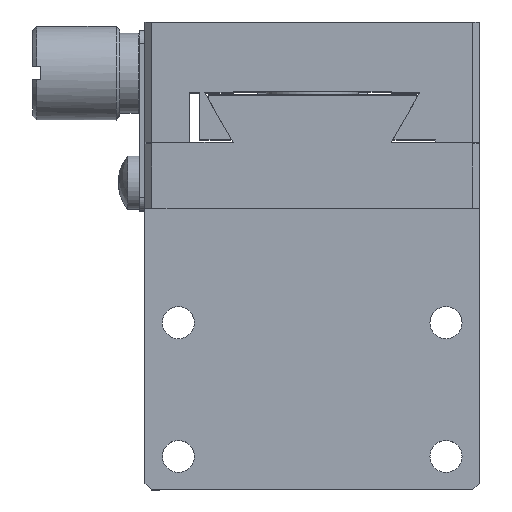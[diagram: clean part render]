
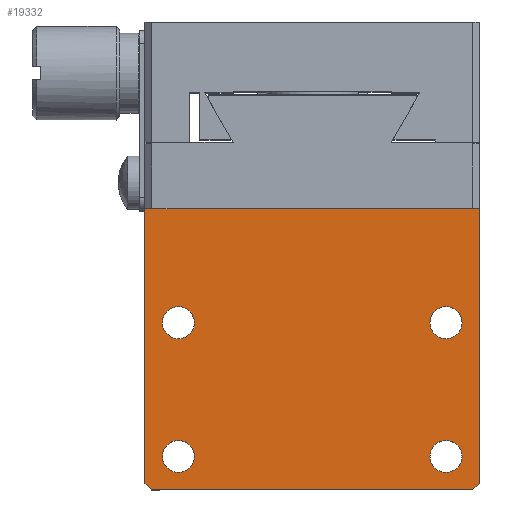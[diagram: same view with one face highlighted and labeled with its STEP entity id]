
A CAD part, top view. The second image highlights one B-rep face of the part: STEP entity #19332.
In plain terms, the highlighted planar face has unit normal (0, 0, 1).
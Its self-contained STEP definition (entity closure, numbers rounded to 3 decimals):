
#42 = VERTEX_POINT ( 'NONE', #19686 ) ;
#60 = EDGE_CURVE ( 'NONE', #9926, #9994, #2398, .T. ) ;
#342 = AXIS2_PLACEMENT_3D ( 'NONE', #15865, #15484, #5731 ) ;
#851 = ORIENTED_EDGE ( 'NONE', *, *, #18841, .T. ) ;
#1125 = CARTESIAN_POINT ( 'NONE',  ( 0., 0., 12.5 ) ) ;
#1238 = VECTOR ( 'NONE', #10334, 1000. ) ;
#1276 = VERTEX_POINT ( 'NONE', #3372 ) ;
#1446 = FACE_BOUND ( 'NONE', #17618, .T. ) ;
#1490 = VERTEX_POINT ( 'NONE', #19811 ) ;
#2120 = CIRCLE ( 'NONE', #17896, 1.2 ) ;
#2398 = LINE ( 'NONE', #14229, #1238 ) ;
#2508 = VERTEX_POINT ( 'NONE', #6288 ) ;
#2703 = EDGE_CURVE ( 'NONE', #1490, #1490, #2120, .T. ) ;
#2818 = CARTESIAN_POINT ( 'NONE',  ( 24.5, -20., 12.5 ) ) ;
#2854 = VERTEX_POINT ( 'NONE', #2818 ) ;
#2949 = EDGE_CURVE ( 'NONE', #9718, #9926, #11141, .T. ) ;
#3286 = ORIENTED_EDGE ( 'NONE', *, *, #10761, .F. ) ;
#3372 = CARTESIAN_POINT ( 'NONE',  ( 25., 1., 12.5 ) ) ;
#3397 = FACE_BOUND ( 'NONE', #20007, .T. ) ;
#3695 = EDGE_CURVE ( 'NONE', #42, #42, #15803, .T. ) ;
#3784 = FACE_BOUND ( 'NONE', #20607, .T. ) ;
#4391 = CARTESIAN_POINT ( 'NONE',  ( 22.5, -17.5, 12.5 ) ) ;
#4915 = CIRCLE ( 'NONE', #10742, 1.2 ) ;
#5731 = DIRECTION ( 'NONE',  ( 1., 0., 0. ) ) ;
#6128 = VERTEX_POINT ( 'NONE', #11476 ) ;
#6288 = CARTESIAN_POINT ( 'NONE',  ( 23.7, -7.5, 12.5 ) ) ;
#6345 = DIRECTION ( 'NONE',  ( 0.707, 0.707, 0. ) ) ;
#6404 = CARTESIAN_POINT ( 'NONE',  ( 2.5, -7.5, 12.5 ) ) ;
#7143 = LINE ( 'NONE', #13001, #18758 ) ;
#7871 = LINE ( 'NONE', #9700, #14752 ) ;
#8289 = LINE ( 'NONE', #12323, #20926 ) ;
#9054 = DIRECTION ( 'NONE',  ( 0., -1., 0. ) ) ;
#9245 = CARTESIAN_POINT ( 'NONE',  ( 0.5, -20., 12.5 ) ) ;
#9700 = CARTESIAN_POINT ( 'NONE',  ( 25., -20., 12.5 ) ) ;
#9718 = VERTEX_POINT ( 'NONE', #19792 ) ;
#9926 = VERTEX_POINT ( 'NONE', #22629 ) ;
#9994 = VERTEX_POINT ( 'NONE', #9245 ) ;
#10334 = DIRECTION ( 'NONE',  ( 0.707, -0.707, 0. ) ) ;
#10444 = CARTESIAN_POINT ( 'NONE',  ( 25., -19.5, 12.5 ) ) ;
#10454 = DIRECTION ( 'NONE',  ( 1., 0., 0. ) ) ;
#10742 = AXIS2_PLACEMENT_3D ( 'NONE', #18924, #10748, #12439 ) ;
#10748 = DIRECTION ( 'NONE',  ( 0., 0., -1. ) ) ;
#10761 = EDGE_CURVE ( 'NONE', #9718, #1276, #7143, .T. ) ;
#11071 = DIRECTION ( 'NONE',  ( 0., -1., 0. ) ) ;
#11130 = ORIENTED_EDGE ( 'NONE', *, *, #60, .T. ) ;
#11141 = LINE ( 'NONE', #1125, #13225 ) ;
#11476 = CARTESIAN_POINT ( 'NONE',  ( 3.7, -17.5, 12.5 ) ) ;
#11570 = EDGE_CURVE ( 'NONE', #2508, #2508, #12334, .T. ) ;
#12251 = DIRECTION ( 'NONE',  ( 0., 0., -1. ) ) ;
#12323 = CARTESIAN_POINT ( 'NONE',  ( 25., -19.5, 12.5 ) ) ;
#12334 = CIRCLE ( 'NONE', #13809, 1.2 ) ;
#12439 = DIRECTION ( 'NONE',  ( 1., 0., 0. ) ) ;
#12536 = CARTESIAN_POINT ( 'NONE',  ( 22.5, -7.5, 12.5 ) ) ;
#12789 = DIRECTION ( 'NONE',  ( 0., 0., -1. ) ) ;
#13001 = CARTESIAN_POINT ( 'NONE',  ( 0., 1., 12.5 ) ) ;
#13225 = VECTOR ( 'NONE', #9054, 1000. ) ;
#13436 = EDGE_CURVE ( 'NONE', #1276, #22295, #17040, .T. ) ;
#13778 = ORIENTED_EDGE ( 'NONE', *, *, #11570, .T. ) ;
#13809 = AXIS2_PLACEMENT_3D ( 'NONE', #12536, #12789, #10454 ) ;
#13910 = ORIENTED_EDGE ( 'NONE', *, *, #3695, .T. ) ;
#14126 = DIRECTION ( 'NONE',  ( 0., 0., -1. ) ) ;
#14229 = CARTESIAN_POINT ( 'NONE',  ( 0.5, -20., 12.5 ) ) ;
#14752 = VECTOR ( 'NONE', #25282, 1000. ) ;
#15388 = AXIS2_PLACEMENT_3D ( 'NONE', #6404, #12251, #16281 ) ;
#15484 = DIRECTION ( 'NONE',  ( 0., 0., -1. ) ) ;
#15616 = EDGE_CURVE ( 'NONE', #2854, #22295, #8289, .T. ) ;
#15803 = CIRCLE ( 'NONE', #15388, 1.2 ) ;
#15865 = CARTESIAN_POINT ( 'NONE',  ( 25., 0., 12.5 ) ) ;
#16281 = DIRECTION ( 'NONE',  ( 1., 0., 0. ) ) ;
#16693 = EDGE_CURVE ( 'NONE', #2854, #9994, #7871, .T. ) ;
#16753 = ORIENTED_EDGE ( 'NONE', *, *, #2703, .T. ) ;
#17040 = LINE ( 'NONE', #17173, #24633 ) ;
#17173 = CARTESIAN_POINT ( 'NONE',  ( 25., 0., 12.5 ) ) ;
#17433 = FACE_OUTER_BOUND ( 'NONE', #18753, .T. ) ;
#17618 = EDGE_LOOP ( 'NONE', ( #16753 ) ) ;
#17896 = AXIS2_PLACEMENT_3D ( 'NONE', #4391, #14126, #21928 ) ;
#18713 = EDGE_LOOP ( 'NONE', ( #851 ) ) ;
#18753 = EDGE_LOOP ( 'NONE', ( #25034, #11130, #24783, #21444, #20599, #3286 ) ) ;
#18758 = VECTOR ( 'NONE', #20921, 1000. ) ;
#18841 = EDGE_CURVE ( 'NONE', #6128, #6128, #4915, .T. ) ;
#18924 = CARTESIAN_POINT ( 'NONE',  ( 2.5, -17.5, 12.5 ) ) ;
#19332 = ADVANCED_FACE ( 'NONE', ( #19644, #1446, #3397, #3784, #17433 ), #21457, .F. ) ;
#19644 = FACE_BOUND ( 'NONE', #18713, .T. ) ;
#19686 = CARTESIAN_POINT ( 'NONE',  ( 3.7, -7.5, 12.5 ) ) ;
#19792 = CARTESIAN_POINT ( 'NONE',  ( 0., 1., 12.5 ) ) ;
#19811 = CARTESIAN_POINT ( 'NONE',  ( 23.7, -17.5, 12.5 ) ) ;
#20007 = EDGE_LOOP ( 'NONE', ( #13778 ) ) ;
#20599 = ORIENTED_EDGE ( 'NONE', *, *, #13436, .F. ) ;
#20607 = EDGE_LOOP ( 'NONE', ( #13910 ) ) ;
#20921 = DIRECTION ( 'NONE',  ( 1., 0., 0. ) ) ;
#20926 = VECTOR ( 'NONE', #6345, 1000. ) ;
#21444 = ORIENTED_EDGE ( 'NONE', *, *, #15616, .T. ) ;
#21457 = PLANE ( 'NONE',  #342 ) ;
#21928 = DIRECTION ( 'NONE',  ( 1., 0., 0. ) ) ;
#22295 = VERTEX_POINT ( 'NONE', #10444 ) ;
#22629 = CARTESIAN_POINT ( 'NONE',  ( 0., -19.5, 12.5 ) ) ;
#24633 = VECTOR ( 'NONE', #11071, 1000. ) ;
#24783 = ORIENTED_EDGE ( 'NONE', *, *, #16693, .F. ) ;
#25034 = ORIENTED_EDGE ( 'NONE', *, *, #2949, .T. ) ;
#25282 = DIRECTION ( 'NONE',  ( -1., 0., 0. ) ) ;
